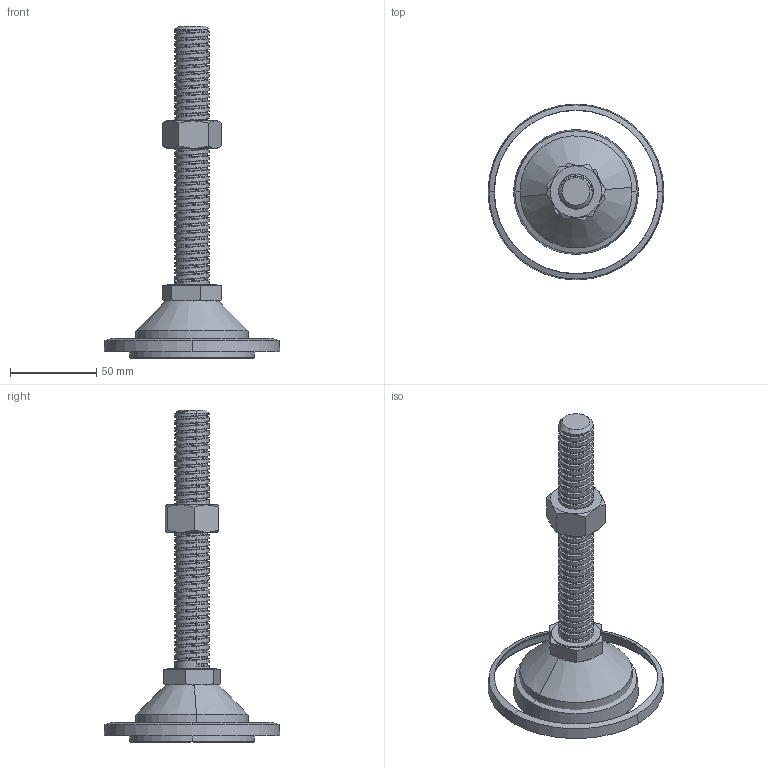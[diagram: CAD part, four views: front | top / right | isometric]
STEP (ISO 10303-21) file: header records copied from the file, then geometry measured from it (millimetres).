
FILE_DESCRIPTION (( 'STEP AP203' ), '1' );
FILE_NAME ('FS106-1-20-L2.STEP', '2015-11-24T02:03:48', ( '' ), ( '' ), 'SwSTEP 2.0', 'SolidWorks 2014', '' );
FILE_SCHEMA (( 'CONFIG_CONTROL_DESIGN' ));
Length unit declared in the file: millimetre
Products named in the file (5): 70橡膠止滑墊-1-1; 70圓腳座-3-1; DS-M20螺帽-1; DS-M20X150L-12調整螺絲(壓花)-1; FS106-1-20-L2
Assembly tree (4 placements, depth 2):
  FS106-1-20-L2
    70橡膠止滑墊-1-1
    70圓腳座-3-1
    DS-M20螺帽-1
    DS-M20X150L-12調整螺絲(壓花)-1
Bounding box: 102.01 x 102.01 x 192.5 mm (x, y, z)
Volume: 145662 mm3; surface area: 52710.1 mm2
Topology: 5 solids, 5 shells, 542 faces, 1447 edges, 886 vertices
Faces by surface type: plane 284, cylinder 143, cone 66, bspline 45, torus 4
Entity records: 27593 total; most frequent: CARTESIAN_POINT 14056, ORIENTED_EDGE 2882, DIRECTION 2658, EDGE_CURVE 1441, AXIS2_PLACEMENT_3D 980, VERTEX_POINT 886, LINE 698, VECTOR 698
